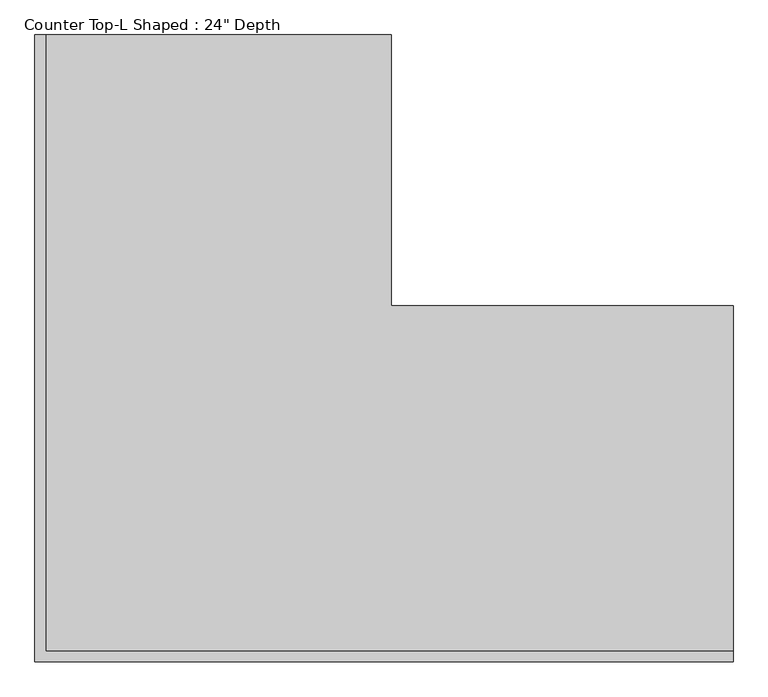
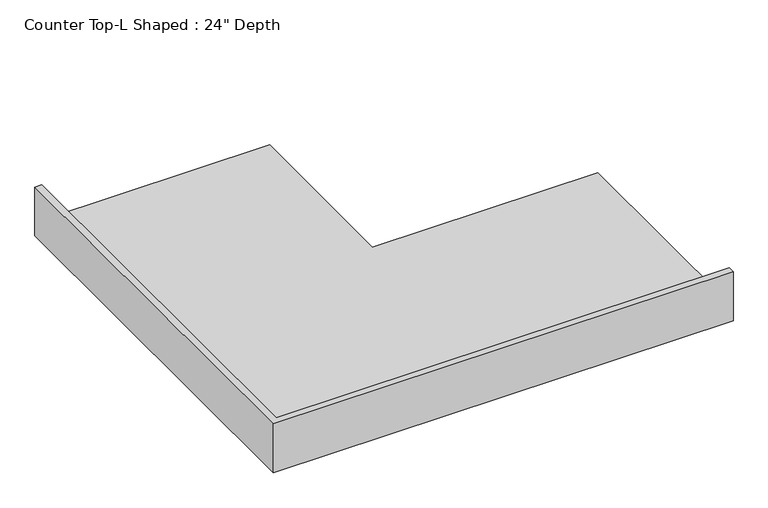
"""IFC4 building model written with IfcOpenShell, lengths in millimetres: furniture geometry."""

from ifc_helpers import new_model, si_unit, origin, place, context, project, spatial, faceted_brep, source, transform, mapped, element, save


def furniture_3fdbe070(model_context):
    return source(origin(), model_context, "Body", "Brep", [
        faceted_brep([(-565.4622951, 1117.6, 914.4), (-1181.4122951, 1117.6, 914.4), (-1181.4122951, 19.05, 914.4), (44.1377049, 19.05, 914.4), (44.1377049, 635.0, 914.4), (-565.4622951, 635.0, 914.4), (44.1377049, 0.0, 876.3), (-1200.4622951, 0.0, 876.3), (-1200.4622951, 1117.6, 876.3), (-565.4622951, 1117.6, 876.3), (-565.4622951, 635.0, 876.3), (44.1377049, 635.0, 876.3), (44.1377049, 0.0, 1016.0), (-1200.4622951, 0.0, 1016.0), (-1200.4622951, 1117.6, 1016.0), (-1181.4122951, 1117.6, 1016.0), (44.1377049, 19.05, 1016.0), (-1181.4122951, 19.05, 1016.0)], [[[0, 1, 2, 3, 4, 5]], [[6, 7, 8, 9, 10, 11]], [[6, 12, 13, 7]], [[7, 13, 14, 8]], [[14, 15, 1, 0, 9, 8]], [[5, 10, 9, 0]], [[4, 11, 10, 5]], [[11, 4, 3, 16, 12, 6]], [[13, 12, 16, 17, 15, 14]], [[3, 2, 17, 16]], [[17, 2, 1, 15]]]),
    ])


if __name__ == "__main__":
    model = new_model("IFC4")
    model_context = context("Model", 3, world=origin())
    ifc_project = project(units=[si_unit("LENGTHUNIT", "METRE", prefix="MILLI")], contexts=[model_context])
    site = spatial("IfcSite", under=ifc_project)
    building = spatial("IfcBuilding", under=site)
    placement = place(None, origin())
    furniture_shape = furniture_3fdbe070(model_context)
    element("IfcFurniture", 1, ObjectType="Counter Top-L Shaped : 24\" Depth", at=placement, inside=building, context=model_context, shape_type="MappedRepresentation", body=[
        mapped(furniture_shape, transform((0.0, 0.0, 0.0), x_axis=(1.0, 0.0, 0.0), y_axis=(0.0, 1.0, 0.0), z_axis=(0.0, 0.0, 1.0))),
    ])
    save(model, "model.ifc")
